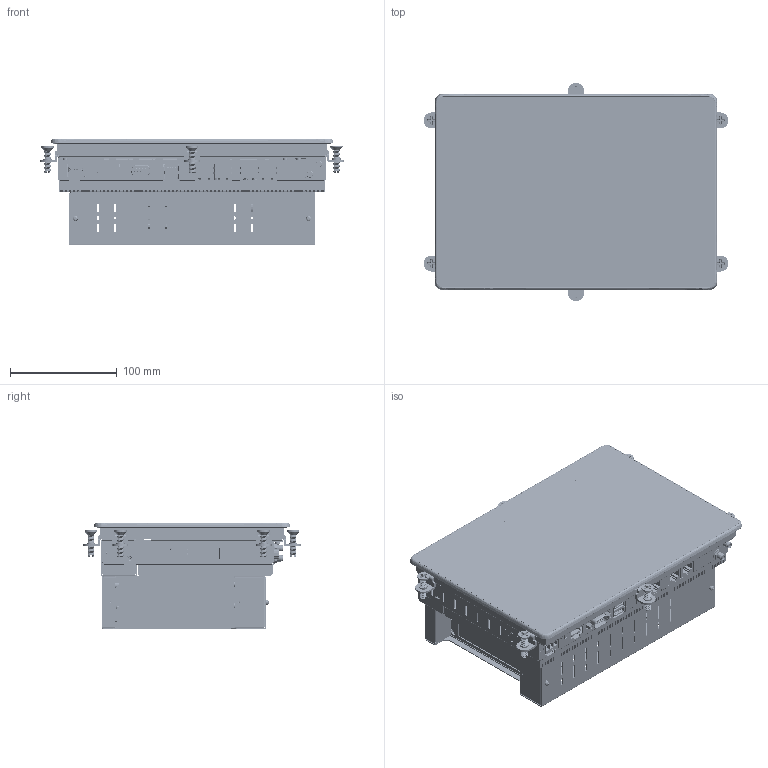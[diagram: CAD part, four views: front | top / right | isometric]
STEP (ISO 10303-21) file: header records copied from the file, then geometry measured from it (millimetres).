
FILE_DESCRIPTION((''),'2;1');
FILE_NAME('NP2A-101-Z','2026-06-02T13:33:42',('gijyu181'),(''),'CREO PARAMETRIC BY PTC INC, 2018050','CREO PARAMETRIC BY PTC INC, 2018050','');
FILE_SCHEMA(('CONFIG_CONTROL_DESIGN','SHAPE_APPEARANCE_LAYERS_GROUPS'));
Products named in the file (1): NP2A-101-Z
Bounding box: 285.6 x 204.6 x 100.05 mm (x, y, z)
Volume: 980566.7 mm3; surface area: 981764.9 mm2
Topology: 44 solids, 111 shells, 35393 faces, 102258 edges, 67506 vertices
Faces by surface type: plane 23892, cylinder 8572, extrusion 1557, cone 549, torus 390, bspline 308, sphere 109, revolution 16
Entity records: 1407155 total; most frequent: CARTESIAN_POINT 279559, ORIENTED_EDGE 203363, DIRECTION 183083, EDGE_CURVE 102184, VECTOR 79669, LINE 78112, VERTEX_POINT 67507, AXIS2_PLACEMENT_3D 51699
